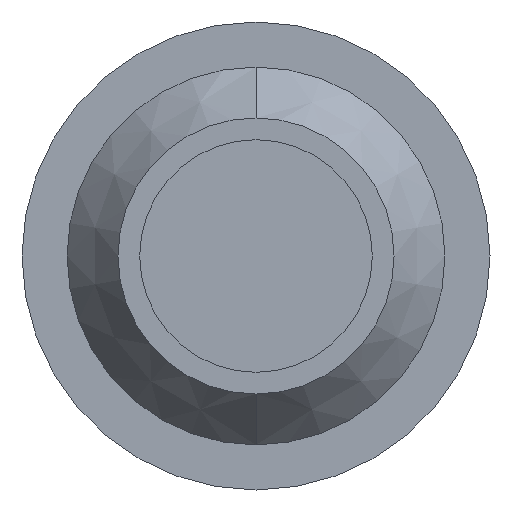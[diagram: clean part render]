
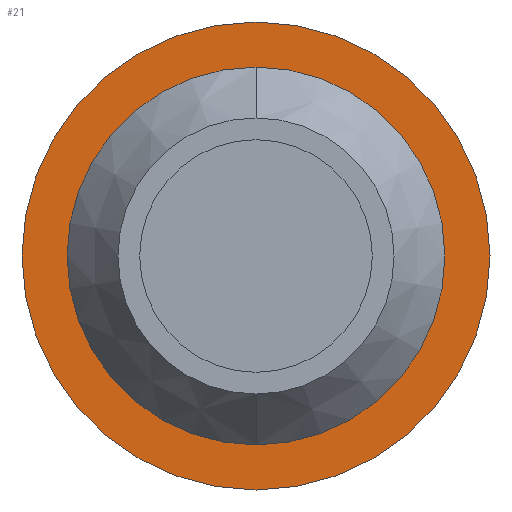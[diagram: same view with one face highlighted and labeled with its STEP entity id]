
A CAD part, front view. The second image highlights one B-rep face of the part: STEP entity #21.
In plain terms, the highlighted planar face has unit normal (0, -1, 0).
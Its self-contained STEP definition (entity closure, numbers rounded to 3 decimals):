
#1 = VERTEX_POINT ( 'NONE', #199 ) ;
#11 = VERTEX_POINT ( 'NONE', #204 ) ;
#18 = AXIS2_PLACEMENT_3D ( 'NONE', #214, #160, #242 ) ;
#21 = ADVANCED_FACE ( 'Faccia1', ( #249, #329 ), #263, .F. ) ;
#29 = ORIENTED_EDGE ( 'NONE', *, *, #248, .T. ) ;
#33 = CARTESIAN_POINT ( 'NONE',  ( 0., -2., 8.05 ) ) ;
#36 = EDGE_CURVE ( 'Bordo3', #11, #147, #223, .T. ) ;
#49 = EDGE_CURVE ( 'Bordo3', #147, #11, #210, .T. ) ;
#52 = CIRCLE ( 'NONE', #251, 5.75 ) ;
#64 = DIRECTION ( 'NONE',  ( 0., 0., 1. ) ) ;
#80 = AXIS2_PLACEMENT_3D ( 'NONE', #370, #159, #303 ) ;
#84 = DIRECTION ( 'NONE',  ( 0., 0., 1. ) ) ;
#92 = EDGE_LOOP ( 'NONE', ( #143, #178 ) ) ;
#116 = DIRECTION ( 'NONE',  ( 0., 1., 0. ) ) ;
#120 = VERTEX_POINT ( 'NONE', #274 ) ;
#123 = DIRECTION ( 'NONE',  ( 0., 1., 0. ) ) ;
#143 = ORIENTED_EDGE ( 'NONE', *, *, #36, .F. ) ;
#147 = VERTEX_POINT ( 'NONE', #33 ) ;
#159 = DIRECTION ( 'NONE',  ( 0., 1., 0. ) ) ;
#160 = DIRECTION ( 'NONE',  ( 0., 1., 0. ) ) ;
#178 = ORIENTED_EDGE ( 'NONE', *, *, #49, .F. ) ;
#194 = DIRECTION ( 'NONE',  ( 0., 1., 0. ) ) ;
#199 = CARTESIAN_POINT ( 'NONE',  ( 0., -2., -5.75 ) ) ;
#204 = CARTESIAN_POINT ( 'NONE',  ( 0., -2., -8.05 ) ) ;
#210 = CIRCLE ( 'NONE', #18, 8.05 ) ;
#214 = CARTESIAN_POINT ( 'NONE',  ( 0., -2., 0. ) ) ;
#223 = CIRCLE ( 'NONE', #80, 8.05 ) ;
#242 = DIRECTION ( 'NONE',  ( 0., 0., 1. ) ) ;
#248 = EDGE_CURVE ( 'Bordo1', #1, #120, #404, .T. ) ;
#249 = FACE_OUTER_BOUND ( 'NONE', #92, .T. ) ;
#251 = AXIS2_PLACEMENT_3D ( 'NONE', #386, #194, #389 ) ;
#258 = EDGE_LOOP ( 'NONE', ( #267, #29 ) ) ;
#263 = PLANE ( 'NONE',  #367 ) ;
#267 = ORIENTED_EDGE ( 'NONE', *, *, #363, .T. ) ;
#274 = CARTESIAN_POINT ( 'NONE',  ( 0., -2., 5.75 ) ) ;
#297 = CARTESIAN_POINT ( 'NONE',  ( 0., -2., -5.75 ) ) ;
#303 = DIRECTION ( 'NONE',  ( 0., 0., 1. ) ) ;
#314 = CARTESIAN_POINT ( 'NONE',  ( 0., -2., 0. ) ) ;
#329 = FACE_BOUND ( 'NONE', #258, .T. ) ;
#363 = EDGE_CURVE ( 'Bordo1', #120, #1, #52, .T. ) ;
#367 = AXIS2_PLACEMENT_3D ( 'NONE', #297, #116, #84 ) ;
#370 = CARTESIAN_POINT ( 'NONE',  ( 0., -2., 0. ) ) ;
#386 = CARTESIAN_POINT ( 'NONE',  ( 0., -2., 0. ) ) ;
#389 = DIRECTION ( 'NONE',  ( 0., 0., 1. ) ) ;
#404 = CIRCLE ( 'NONE', #411, 5.75 ) ;
#411 = AXIS2_PLACEMENT_3D ( 'NONE', #314, #123, #64 ) ;
